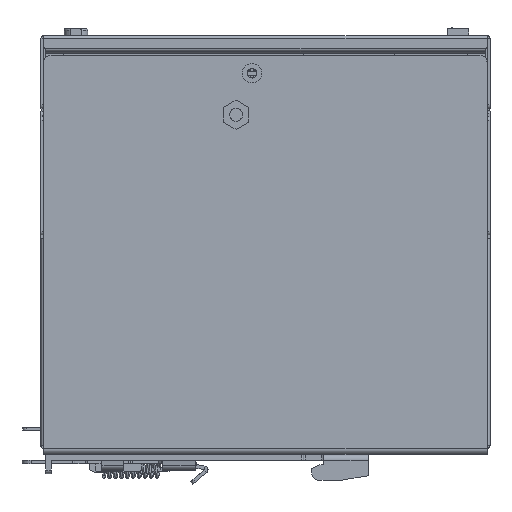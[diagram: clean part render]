
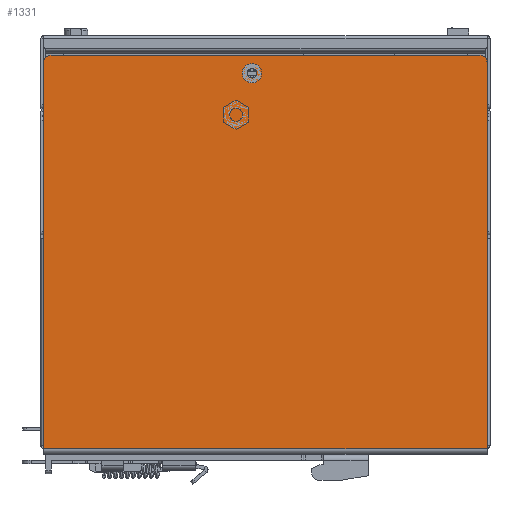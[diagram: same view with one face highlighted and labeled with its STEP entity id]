
A CAD part, left-side view. The second image highlights one B-rep face of the part: STEP entity #1331.
In plain terms, the highlighted planar face has unit normal (-1, 0, 0).
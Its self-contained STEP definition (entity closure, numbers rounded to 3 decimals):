
#32=CARTESIAN_POINT('',(0.,2.,-6.5));
#33=DIRECTION('',(1.,0.,0.));
#34=DIRECTION('',(0.,0.,1.));
#35=AXIS2_PLACEMENT_3D('',#32,#33,#34);
#37=DIRECTION('',(0.,0.,-1.));
#38=VECTOR('',#37,106.4);
#39=CARTESIAN_POINT('',(0.,0.,-6.5));
#40=LINE('',#39,#38);
#41=CARTESIAN_POINT('',(0.,120.,-6.5));
#42=DIRECTION('',(1.,0.,0.));
#43=DIRECTION('',(0.,1.,0.));
#44=AXIS2_PLACEMENT_3D('',#41,#42,#43);
#46=DIRECTION('',(0.,-1.,0.));
#47=VECTOR('',#46,118.);
#48=CARTESIAN_POINT('',(0.,120.,-4.5));
#49=LINE('',#48,#47);
#50=CARTESIAN_POINT('',(0.,64.7,-9.5));
#51=DIRECTION('',(-1.,0.,0.));
#52=DIRECTION('',(0.,0.,1.));
#53=AXIS2_PLACEMENT_3D('',#50,#51,#52);
#55=CARTESIAN_POINT('',(0.,64.7,-9.5));
#56=DIRECTION('',(-1.,0.,0.));
#57=DIRECTION('',(0.,0.,-1.));
#58=AXIS2_PLACEMENT_3D('',#55,#56,#57);
#80=DIRECTION('',(0.,0.,-1.));
#81=VECTOR('',#80,106.4);
#82=CARTESIAN_POINT('',(0.,122.,-6.5));
#83=LINE('',#82,#81);
#93=DIRECTION('',(0.,-1.,0.));
#94=VECTOR('',#93,122.);
#95=CARTESIAN_POINT('',(0.,122.,-112.9));
#96=LINE('',#95,#94);
#1022=CARTESIAN_POINT('',(0.,2.,-4.5));
#1023=CARTESIAN_POINT('',(0.,0.,-6.5));
#1024=VERTEX_POINT('',#1022);
#1025=VERTEX_POINT('',#1023);
#1026=CARTESIAN_POINT('',(0.,0.,-112.9));
#1027=VERTEX_POINT('',#1026);
#1028=CARTESIAN_POINT('',(0.,122.,-112.9));
#1029=VERTEX_POINT('',#1028);
#1030=CARTESIAN_POINT('',(0.,122.,-6.5));
#1031=VERTEX_POINT('',#1030);
#1032=CARTESIAN_POINT('',(0.,120.,-4.5));
#1033=VERTEX_POINT('',#1032);
#1034=CARTESIAN_POINT('',(0.,64.7,-8.175));
#1035=CARTESIAN_POINT('',(0.,64.7,-10.825));
#1036=VERTEX_POINT('',#1034);
#1037=VERTEX_POINT('',#1035);
#1306=CARTESIAN_POINT('',(0.,0.,-114.4));
#1307=DIRECTION('',(-1.,0.,0.));
#1308=DIRECTION('',(0.,0.,1.));
#1309=AXIS2_PLACEMENT_3D('',#1306,#1307,#1308);
#1310=PLANE('',#1309);
#1312=ORIENTED_EDGE('',*,*,#1311,.T.);
#1314=ORIENTED_EDGE('',*,*,#1313,.T.);
#1316=ORIENTED_EDGE('',*,*,#1315,.F.);
#1318=ORIENTED_EDGE('',*,*,#1317,.F.);
#1320=ORIENTED_EDGE('',*,*,#1319,.T.);
#1322=ORIENTED_EDGE('',*,*,#1321,.T.);
#1323=EDGE_LOOP('',(#1312,#1314,#1316,#1318,#1320,#1322));
#1324=FACE_OUTER_BOUND('',#1323,.F.);
#1326=ORIENTED_EDGE('',*,*,#1325,.T.);
#1328=ORIENTED_EDGE('',*,*,#1327,.T.);
#1329=EDGE_LOOP('',(#1326,#1328));
#1330=FACE_BOUND('',#1329,.F.);
#1331=ADVANCED_FACE('',(#1324,#1330),#1310,.T.);
#36=CIRCLE('',#35,2.);
#45=CIRCLE('',#44,2.);
#54=CIRCLE('',#53,1.325);
#59=CIRCLE('',#58,1.325);
#1311=EDGE_CURVE('',#1024,#1025,#36,.T.);
#1313=EDGE_CURVE('',#1025,#1027,#40,.T.);
#1315=EDGE_CURVE('',#1029,#1027,#96,.T.);
#1317=EDGE_CURVE('',#1031,#1029,#83,.T.);
#1319=EDGE_CURVE('',#1031,#1033,#45,.T.);
#1321=EDGE_CURVE('',#1033,#1024,#49,.T.);
#1325=EDGE_CURVE('',#1036,#1037,#54,.T.);
#1327=EDGE_CURVE('',#1037,#1036,#59,.T.);
